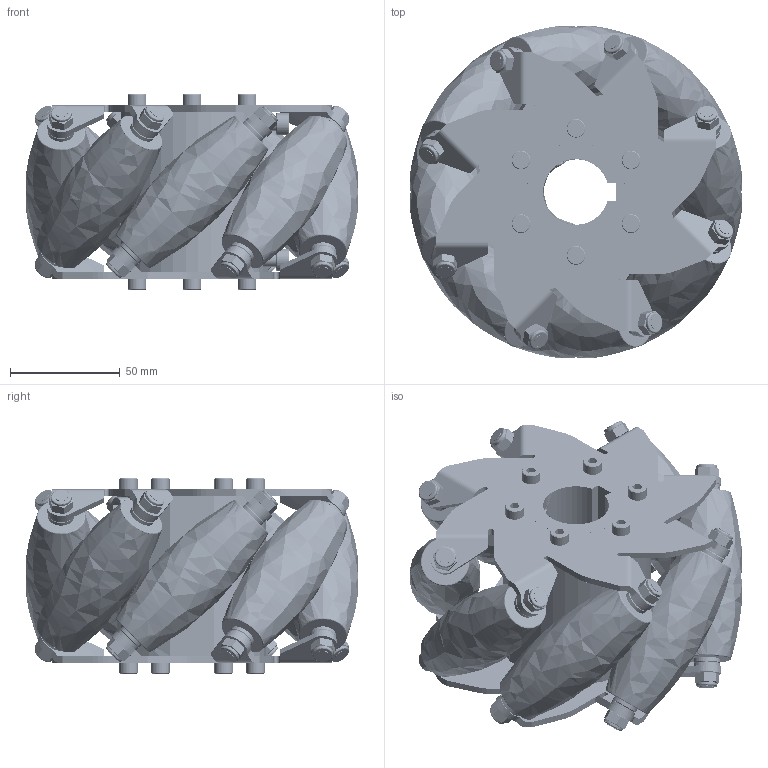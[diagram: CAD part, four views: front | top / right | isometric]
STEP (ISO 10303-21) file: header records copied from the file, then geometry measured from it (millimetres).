
FILE_DESCRIPTION(('Open CASCADE Model'),'2;1');
FILE_NAME('Open CASCADE Shape Model','2026-10-14T17:05:02',('Author'),( 'Open CASCADE'),'Open CASCADE STEP processor 7.7','Open CASCADE 7.7' ,'Unknown');
FILE_SCHEMA(('AUTOMOTIVE_DESIGN { 1 0 10303 214 1 1 1 1 }'));
Length unit declared in the file: millimetre
Products named in the file (1667): Open CASCADE STEP translator 7.7 1; Open CASCADE STEP translator 7.7 1.1; Open CASCADE STEP translator 7.7 1.1.1; Open CASCADE STEP translator 7.7 1.1.2; Open CASCADE STEP translator 7.7 1.1.3; Open CASCADE STEP translator 7.7 1.1.4; Open CASCADE STEP translator 7.7 1.1.5; Open CASCADE STEP translator 7.7 1.1.6; Open CASCADE STEP translator 7.7 1.1.7; Open CASCADE STEP translator 7.7 1.1.8; Open CASCADE STEP translator 7.7 1.1.9; Open CASCADE STEP translator 7.7 1.1.10; Open CASCADE STEP translator 7.7 1.1.11; Open CASCADE STEP translator 7.7 1.1.12; Open CASCADE STEP translator 7.7 1.1.13; Open CASCADE STEP translator 7.7 1.1.14; Open CASCADE STEP translator 7.7 1.1.15; Open CASCADE STEP translator 7.7 1.1.16; Open CASCADE STEP translator 7.7 1.1.17; Open CASCADE STEP translator 7.7 1.1.18; Open CASCADE STEP translator 7.7 1.1.19; Open CASCADE STEP translator 7.7 1.1.20; Open CASCADE STEP translator 7.7 1.1.21; Open CASCADE STEP translator 7.7 1.1.22; Open CASCADE STEP translator 7.7 1.1.23; Open CASCADE STEP translator 7.7 1.1.24; Open CASCADE STEP translator 7.7 1.1.25; Open CASCADE STEP translator 7.7 1.1.26; Open CASCADE STEP translator 7.7 1.1.27; Open CASCADE STEP translator 7.7 1.1.28; Open CASCADE STEP translator 7.7 1.1.29; Open CASCADE STEP translator 7.7 1.1.30; Open CASCADE STEP translator 7.7 1.1.31; Open CASCADE STEP translator 7.7 1.1.32; Open CASCADE STEP translator 7.7 1.1.33; Open CASCADE STEP translator 7.7 1.1.34; Open CASCADE STEP translator 7.7 1.1.35; Open CASCADE STEP translator 7.7 1.1.36; Open CASCADE STEP translator 7.7 1.1.37; Open CASCADE STEP translator 7.7 1.1.38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
Assembly tree (1666 placements, depth 3):
  Open CASCADE STEP translator 7.7 1
    Open CASCADE STEP translator 7.7 1.1
      Open CASCADE STEP translator 7.7 1.1.1
      Open CASCADE STEP translator 7.7 1.1.2
      Open CASCADE STEP translator 7.7 1.1.3
      Open CASCADE STEP translator 7.7 1.1.4
      Open CASCADE STEP translator 7.7 1.1.5
      Open CASCADE STEP translator 7.7 1.1.6
      Open CASCADE STEP translator 7.7 1.1.7
      Open CASCADE STEP translator 7.7 1.1.8
      Open CASCADE STEP translator 7.7 1.1.9
      Open CASCADE STEP translator 7.7 1.1.10
      Open CASCADE STEP translator 7.7 1.1.11
      Open CASCADE STEP translator 7.7 1.1.12
      Open CASCADE STEP translator 7.7 1.1.13
      Open CASCADE STEP translator 7.7 1.1.14
      Open CASCADE STEP translator 7.7 1.1.15
      Open CASCADE STEP translator 7.7 1.1.16
      Open CASCADE STEP translator 7.7 1.1.17
      Open CASCADE STEP translator 7.7 1.1.18
      Open CASCADE STEP translator 7.7 1.1.19
      Open CASCADE STEP translator 7.7 1.1.20
      Open CASCADE STEP translator 7.7 1.1.21
      Open CASCADE STEP translator 7.7 1.1.22
      Open CASCADE STEP translator 7.7 1.1.23
      Open CASCADE STEP translator 7.7 1.1.24
      Open CASCADE STEP translator 7.7 1.1.25
      Open CASCADE STEP translator 7.7 1.1.26
      Open CASCADE STEP translator 7.7 1.1.27
      Open CASCADE STEP translator 7.7 1.1.28
      Open CASCADE STEP translator 7.7 1.1.29
      Open CASCADE STEP translator 7.7 1.1.30
      Open CASCADE STEP translator 7.7 1.1.31
      Open CASCADE STEP translator 7.7 1.1.32
      Open CASCADE STEP translator 7.7 1.1.33
      Open CASCADE STEP translator 7.7 1.1.34
      Open CASCADE STEP translator 7.7 1.1.35
      Open CASCADE STEP translator 7.7 1.1.36
      Open CASCADE STEP translator 7.7 1.1.37
      Open CASCADE STEP translator 7.7 1.1.38
      Open CASCADE STEP translator 7.7 1.1.39
      Open CASCADE STEP translator 7.7 1.1.40
      Open CASCADE STEP translator 7.7 1.1.41
      Open CASCADE STEP translator 7.7 1.1.42
      Open CASCADE STEP translator 7.7 1.1.43
      Open CASCADE STEP translator 7.7 1.1.44
      Open CASCADE STEP translator 7.7 1.1.45
      Open CASCADE STEP translator 7.7 1.1.46
      Open CASCADE STEP translator 7.7 1.1.47
    Open CASCADE STEP translator 7.7 1.2
      Open CASCADE STEP translator 7.7 1.2.1
      Open CASCADE STEP translator 7.7 1.2.2
      Open CASCADE STEP translator 7.7 1.2.3
      Open CASCADE STEP translator 7.7 1.2.4
      Open CASCADE STEP translator 7.7 1.2.5
      Open CASCADE STEP translator 7.7 1.2.6
      Open CASCADE STEP translator 7.7 1.2.7
      Open CASCADE STEP translator 7.7 1.2.8
      Open CASCADE STEP translator 7.7 1.2.9
      Open CASCADE STEP translator 7.7 1.2.10
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Bounding box: 151.46 x 151.46 x 89 mm (x, y, z)
Surface area: 220114.5 mm2 (no closed solid volume)
Topology: 0 solids, 1583 shells, 1583 faces, 23690 edges, 23686 vertices
Faces by surface type: revolution 882, bspline 701
Entity records: 404432 total; most frequent: CARTESIAN_POINT 159739, B_SPLINE_CURVE_WITH_KNOTS 41922, ORIENTED_EDGE 23686, EDGE_CURVE 23686, VERTEX_POINT 23686, SURFACE_CURVE 23686, PCURVE 23686, DEFINITIONAL_REPRESENTATION 23686
